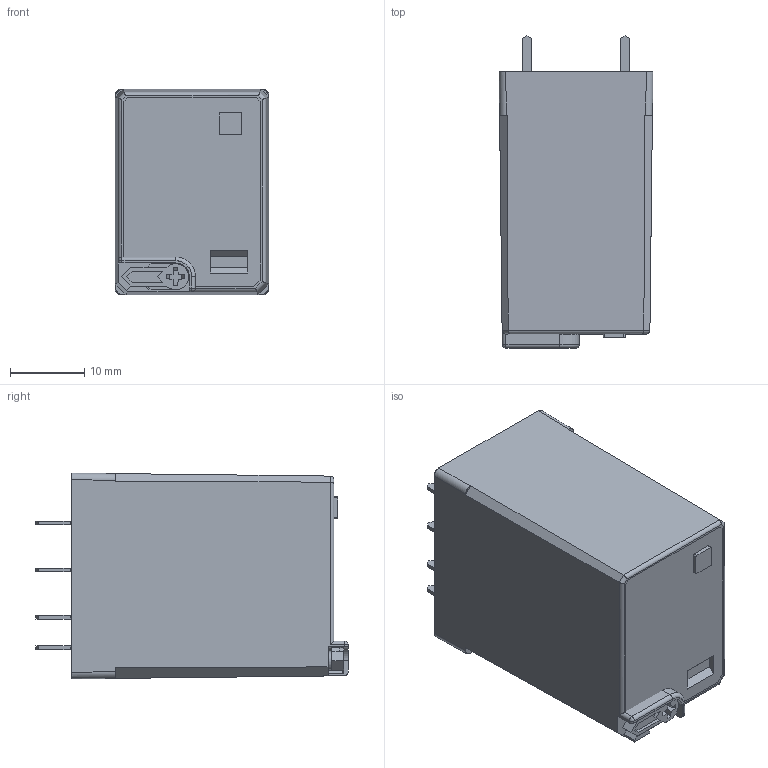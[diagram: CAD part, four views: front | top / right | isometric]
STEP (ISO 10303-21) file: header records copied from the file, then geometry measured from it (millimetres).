
FILE_DESCRIPTION(('STEP AP214'),'2;1');
FILE_NAME('complessivo 55 2 sc con pulsante CS AC---catalogo_OK.stp','2010-11-19T14:05:44',(''),(''),'2007.1.106','THINKDESIGN','');
FILE_SCHEMA(('AUTOMOTIVE_DESIGN'));
Length unit declared in the file: millimetre
Products named in the file (1): None
Bounding box: 20.7 x 42 x 27.7 mm (x, y, z)
Surface area: 7827.8 mm2 (no closed solid volume)
Topology: 0 solids, 0 shells, 267 faces, 1481 edges, 1472 vertices
Faces by surface type: plane 193, cylinder 44, bspline 30
Full cylindrical faces by diameter (mm): 2.5 x1, 5 x1
Entity records: 15435 total; most frequent: CARTESIAN_POINT 4610, DIRECTION 1851, COMPOSITE_CURVE_SEGMENT 1479, TRIMMED_CURVE 1302, VECTOR 1233, LINE 1233, AXIS2_PLACEMENT_3D 309, OUTER_BOUNDARY_CURVE 267
